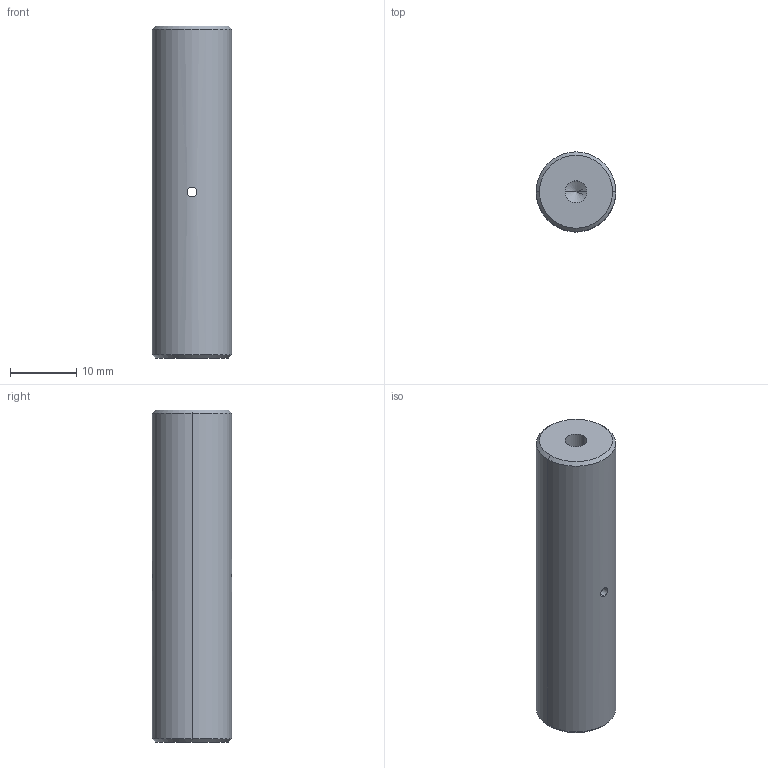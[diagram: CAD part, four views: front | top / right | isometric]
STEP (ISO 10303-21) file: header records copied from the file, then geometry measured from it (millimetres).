
FILE_DESCRIPTION (( 'STEP AP203' ), '1' );
FILE_NAME ('PHSP12-2C.step', '2019-05-09T09:07:50', ( '' ), ( '' ), 'SwSTEP 2.0', 'SolidWorks 2016', '' );
FILE_SCHEMA (( 'CONFIG_CONTROL_DESIGN' ));
Length unit declared in the file: millimetre
Products named in the file (1): PHSP12-2C
Bounding box: 12 x 12 x 50 mm (x, y, z)
Volume: 5446.1 mm3; surface area: 2353.5 mm2
Topology: 1 solids, 1 shells, 18 faces, 40 edges, 22 vertices
Faces by surface type: cylinder 8, cone 8, plane 2
Entity records: 597 total; most frequent: CARTESIAN_POINT 133, DIRECTION 86, ORIENTED_EDGE 72, EDGE_CURVE 36, AXIS2_PLACEMENT_3D 35, VERTEX_POINT 22, EDGE_LOOP 22, FACE_OUTER_BOUND 18
